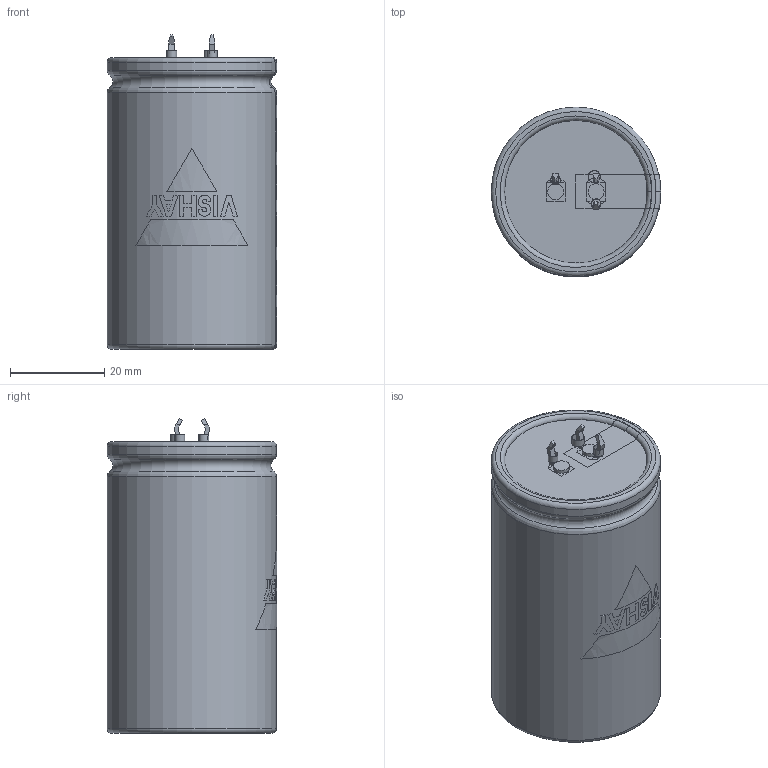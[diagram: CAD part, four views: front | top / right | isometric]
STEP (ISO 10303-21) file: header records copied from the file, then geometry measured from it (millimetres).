
FILE_DESCRIPTION(('FreeCAD Model'),'2;1');
FILE_NAME( 'C:/Users/Gebruiker/Documents/FreeCAD/SnapIn_35x60_3pin_4.0.step', '2020-11-12T21:21:01',('Author'),(''), 'Open CASCADE STEP processor 6.8','FreeCAD','Unknown');
FILE_SCHEMA(('AUTOMOTIVE_DESIGN_CC2 { 1 2 10303 214 -1 1 5 4 }'));
Length unit declared in the file: millimetre
Products named in the file (9): ASSEMBLY; TerminalMinKP; PCBHolesKP; TerminalPlus; Disc; BottomInsulation; Can3D; InkMinusBar; InkLogo
Assembly tree (8 placements, depth 2):
  ASSEMBLY
    TerminalMinKP
    PCBHolesKP
    TerminalPlus
    Disc
    BottomInsulation
    Can3D
    InkMinusBar
    InkLogo
Bounding box: 36.05 x 36.05 x 66.95 mm (x, y, z)
Volume: 71231.1 mm3; surface area: 21044.8 mm2
Topology: 17 solids, 17 shells, 212 faces, 523 edges, 341 vertices
Faces by surface type: plane 163, cylinder 31, torus 18
Full cylindrical faces by diameter (mm): 2 x2, 2.1 x2, 2.5 x1, 2.6 x1, 3.4 x2, 28.8 x2, 30.3 x1, 36 x2
Entity records: 21082 total; most frequent: CARTESIAN_POINT 9389, DIRECTION 1824, ORIENTED_EDGE 1046, PCURVE 1046, DEFINITIONAL_REPRESENTATION 1046, LINE 1025, VECTOR 1025, EDGE_CURVE 523
